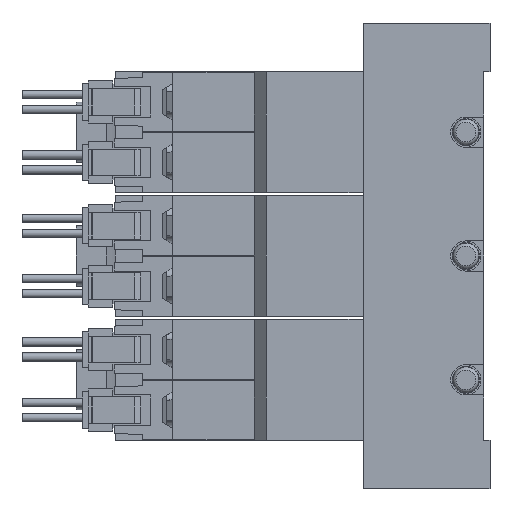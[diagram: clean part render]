
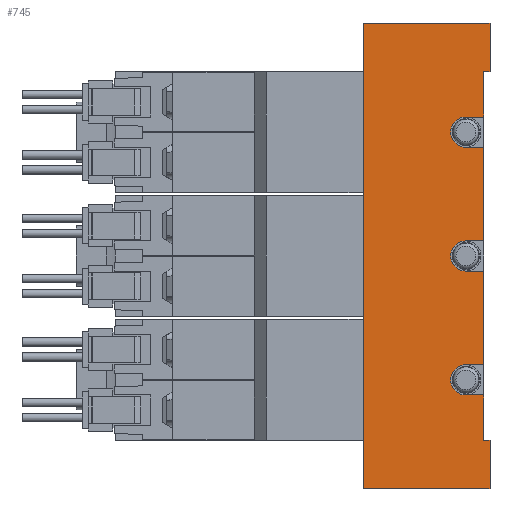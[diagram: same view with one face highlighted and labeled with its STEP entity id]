
A CAD part, left-side view. The second image highlights one B-rep face of the part: STEP entity #745.
In plain terms, the highlighted planar face has unit normal (-1, 0, 0) as drawn and (1, 0, 0) by its records, which use the part's own axes.
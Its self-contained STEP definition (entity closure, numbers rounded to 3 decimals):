
#745=ADVANCED_FACE('',(#1547),#1548,.F.);
#1547=FACE_OUTER_BOUND('',#2405,.T.);
#1548=PLANE('',#2406);
#2405=EDGE_LOOP('',(#5273,#5274,#5275,#5276,#5277,#5278,#5279,#5280,#5281,#5282,#5283,#5284,#5285,#5286,#5287,#5288,#5289,#5290,#5291,#5292));
#2406=AXIS2_PLACEMENT_3D('',#5293,#5294,#5295);
#5273=ORIENTED_EDGE('',*,*,#6406,.T.);
#5274=ORIENTED_EDGE('',*,*,#6329,.T.);
#5275=ORIENTED_EDGE('',*,*,#6407,.F.);
#5276=ORIENTED_EDGE('',*,*,#6366,.F.);
#5277=ORIENTED_EDGE('',*,*,#6408,.T.);
#5278=ORIENTED_EDGE('',*,*,#6409,.T.);
#5279=ORIENTED_EDGE('',*,*,#6410,.T.);
#5280=ORIENTED_EDGE('',*,*,#6401,.F.);
#5281=ORIENTED_EDGE('',*,*,#6411,.F.);
#5282=ORIENTED_EDGE('',*,*,#6391,.F.);
#5283=ORIENTED_EDGE('',*,*,#6412,.T.);
#5284=ORIENTED_EDGE('',*,*,#6413,.F.);
#5285=ORIENTED_EDGE('',*,*,#6343,.F.);
#5286=ORIENTED_EDGE('',*,*,#6414,.F.);
#5287=ORIENTED_EDGE('',*,*,#6415,.T.);
#5288=ORIENTED_EDGE('',*,*,#6416,.F.);
#5289=ORIENTED_EDGE('',*,*,#6326,.F.);
#5290=ORIENTED_EDGE('',*,*,#6417,.F.);
#5291=ORIENTED_EDGE('',*,*,#6418,.T.);
#5292=ORIENTED_EDGE('',*,*,#6419,.T.);
#5293=CARTESIAN_POINT('',(17.5,1.0,38.5));
#5294=DIRECTION('',(-1.0,0.0,0.0));
#5295=DIRECTION('',(0.0,0.0,1.0));
#6326=EDGE_CURVE('',#7827,#7829,#7830,.T.);
#6329=EDGE_CURVE('',#7834,#7835,#7836,.T.);
#6343=EDGE_CURVE('',#7859,#7861,#7862,.T.);
#6366=EDGE_CURVE('',#7901,#7903,#7904,.T.);
#6391=EDGE_CURVE('',#7946,#7947,#7948,.T.);
#6401=EDGE_CURVE('',#7963,#7964,#7965,.T.);
#6406=EDGE_CURVE('',#7972,#7834,#7973,.T.);
#6407=EDGE_CURVE('',#7903,#7835,#7974,.T.);
#6408=EDGE_CURVE('',#7901,#7975,#7976,.T.);
#6409=EDGE_CURVE('',#7975,#7977,#7978,.T.);
#6410=EDGE_CURVE('',#7977,#7964,#7979,.T.);
#6411=EDGE_CURVE('',#7947,#7963,#7980,.T.);
#6412=EDGE_CURVE('',#7946,#7981,#7982,.T.);
#6413=EDGE_CURVE('',#7861,#7981,#7983,.T.);
#6414=EDGE_CURVE('',#7984,#7859,#7985,.T.);
#6415=EDGE_CURVE('',#7984,#7986,#7987,.T.);
#6416=EDGE_CURVE('',#7829,#7986,#7988,.T.);
#6417=EDGE_CURVE('',#7989,#7827,#7990,.T.);
#6418=EDGE_CURVE('',#7989,#7991,#7992,.T.);
#6419=EDGE_CURVE('',#7991,#7972,#7993,.T.);
#7827=VERTEX_POINT('',#10261);
#7829=VERTEX_POINT('',#10264);
#7830=CIRCLE('',#10265,2.5);
#7834=VERTEX_POINT('',#10270);
#7835=VERTEX_POINT('',#10271);
#7836=LINE('',#10272,#10273);
#7859=VERTEX_POINT('',#10301);
#7861=VERTEX_POINT('',#10304);
#7862=CIRCLE('',#10305,2.5);
#7901=VERTEX_POINT('',#10442);
#7903=VERTEX_POINT('',#10445);
#7904=LINE('',#10446,#10447);
#7946=VERTEX_POINT('',#10504);
#7947=VERTEX_POINT('',#10505);
#7948=LINE('',#10506,#10507);
#7963=VERTEX_POINT('',#10528);
#7964=VERTEX_POINT('',#10529);
#7965=LINE('',#10530,#10531);
#7972=VERTEX_POINT('',#10540);
#7973=LINE('',#10541,#10542);
#7974=LINE('',#10543,#10544);
#7975=VERTEX_POINT('',#10545);
#7976=LINE('',#10546,#10547);
#7977=VERTEX_POINT('',#10548);
#7978=LINE('',#10549,#10550);
#7979=LINE('',#10551,#10552);
#7980=CIRCLE('',#10553,2.5);
#7981=VERTEX_POINT('',#10554);
#7982=LINE('',#10555,#10556);
#7983=LINE('',#10557,#10558);
#7984=VERTEX_POINT('',#10559);
#7985=LINE('',#10560,#10561);
#7986=VERTEX_POINT('',#10562);
#7987=LINE('',#10563,#10564);
#7988=LINE('',#10565,#10566);
#7989=VERTEX_POINT('',#10567);
#7990=LINE('',#10568,#10569);
#7991=VERTEX_POINT('',#10570);
#7992=LINE('',#10571,#10572);
#7993=LINE('',#10573,#10574);
#10261=CARTESIAN_POINT('',(17.5,4.0,-23.0));
#10264=CARTESIAN_POINT('',(17.5,4.0,-18.0));
#10265=AXIS2_PLACEMENT_3D('',#11646,#11647,#11648);
#10270=CARTESIAN_POINT('',(17.5,0.0,-38.5));
#10271=CARTESIAN_POINT('',(17.5,21.0,-38.5));
#10272=CARTESIAN_POINT('',(17.5,1.0,-38.5));
#10273=VECTOR('',#11653,1.0);
#10301=CARTESIAN_POINT('',(17.5,4.0,-2.5));
#10304=CARTESIAN_POINT('',(17.5,4.0,2.5));
#10305=AXIS2_PLACEMENT_3D('',#11681,#11682,#11683);
#10442=CARTESIAN_POINT('',(17.5,0.0,38.5));
#10445=CARTESIAN_POINT('',(17.5,21.0,38.5));
#10446=CARTESIAN_POINT('',(17.5,1.0,38.5));
#10447=VECTOR('',#11719,1.0);
#10504=CARTESIAN_POINT('',(17.5,1.0,18.0));
#10505=CARTESIAN_POINT('',(17.5,4.0,18.0));
#10506=CARTESIAN_POINT('',(17.5,1.0,18.0));
#10507=VECTOR('',#11759,1.0);
#10528=CARTESIAN_POINT('',(17.5,4.0,23.0));
#10529=CARTESIAN_POINT('',(17.5,1.0,23.0));
#10530=CARTESIAN_POINT('',(17.5,1.0,23.0));
#10531=VECTOR('',#11775,1.0);
#10540=CARTESIAN_POINT('',(17.5,0.0,-30.5));
#10541=CARTESIAN_POINT('',(17.5,0.0,-30.5));
#10542=VECTOR('',#11784,1.0);
#10543=CARTESIAN_POINT('',(17.5,21.0,38.5));
#10544=VECTOR('',#11785,1.0);
#10545=CARTESIAN_POINT('',(17.5,0.0,30.5));
#10546=CARTESIAN_POINT('',(17.5,0.0,38.5));
#10547=VECTOR('',#11786,1.0);
#10548=CARTESIAN_POINT('',(17.5,1.0,30.5));
#10549=CARTESIAN_POINT('',(17.5,0.0,30.5));
#10550=VECTOR('',#11787,1.0);
#10551=CARTESIAN_POINT('',(17.5,1.0,38.5));
#10552=VECTOR('',#11788,1.0);
#10553=AXIS2_PLACEMENT_3D('',#11789,#11790,#11791);
#10554=CARTESIAN_POINT('',(17.5,1.0,2.5));
#10555=CARTESIAN_POINT('',(17.5,1.0,38.5));
#10556=VECTOR('',#11792,1.0);
#10557=CARTESIAN_POINT('',(17.5,1.0,2.5));
#10558=VECTOR('',#11793,1.0);
#10559=CARTESIAN_POINT('',(17.5,1.0,-2.5));
#10560=CARTESIAN_POINT('',(17.5,1.0,-2.5));
#10561=VECTOR('',#11794,1.0);
#10562=CARTESIAN_POINT('',(17.5,1.0,-18.0));
#10563=CARTESIAN_POINT('',(17.5,1.0,38.5));
#10564=VECTOR('',#11795,1.0);
#10565=CARTESIAN_POINT('',(17.5,1.0,-18.0));
#10566=VECTOR('',#11796,1.0);
#10567=CARTESIAN_POINT('',(17.5,1.0,-23.0));
#10568=CARTESIAN_POINT('',(17.5,1.0,-23.0));
#10569=VECTOR('',#11797,1.0);
#10570=CARTESIAN_POINT('',(17.5,1.0,-30.5));
#10571=CARTESIAN_POINT('',(17.5,1.0,38.5));
#10572=VECTOR('',#11798,1.0);
#10573=CARTESIAN_POINT('',(17.5,4.0,-30.5));
#10574=VECTOR('',#11799,1.0);
#11646=CARTESIAN_POINT('',(17.5,4.0,-20.5));
#11647=DIRECTION('',(1.0,0.0,-0.0));
#11648=DIRECTION('',(0.0,0.0,1.0));
#11653=DIRECTION('',(0.0,1.0,0.0));
#11681=CARTESIAN_POINT('',(17.5,4.0,0.0));
#11682=DIRECTION('',(1.0,0.0,-0.0));
#11683=DIRECTION('',(0.0,0.0,1.0));
#11719=DIRECTION('',(0.0,1.0,0.0));
#11759=DIRECTION('',(0.0,1.0,0.0));
#11775=DIRECTION('',(0.0,-1.0,0.0));
#11784=DIRECTION('',(0.0,0.0,-1.0));
#11785=DIRECTION('',(0.0,0.0,-1.0));
#11786=DIRECTION('',(0.0,0.0,-1.0));
#11787=DIRECTION('',(0.0,1.0,0.0));
#11788=DIRECTION('',(0.0,0.0,-1.0));
#11789=CARTESIAN_POINT('',(17.5,4.0,20.5));
#11790=DIRECTION('',(1.0,0.0,-0.0));
#11791=DIRECTION('',(0.0,0.0,1.0));
#11792=DIRECTION('',(0.0,0.0,-1.0));
#11793=DIRECTION('',(0.0,-1.0,0.0));
#11794=DIRECTION('',(0.0,1.0,0.0));
#11795=DIRECTION('',(0.0,0.0,-1.0));
#11796=DIRECTION('',(0.0,-1.0,0.0));
#11797=DIRECTION('',(0.0,1.0,0.0));
#11798=DIRECTION('',(0.0,0.0,-1.0));
#11799=DIRECTION('',(0.0,-1.0,0.0));
